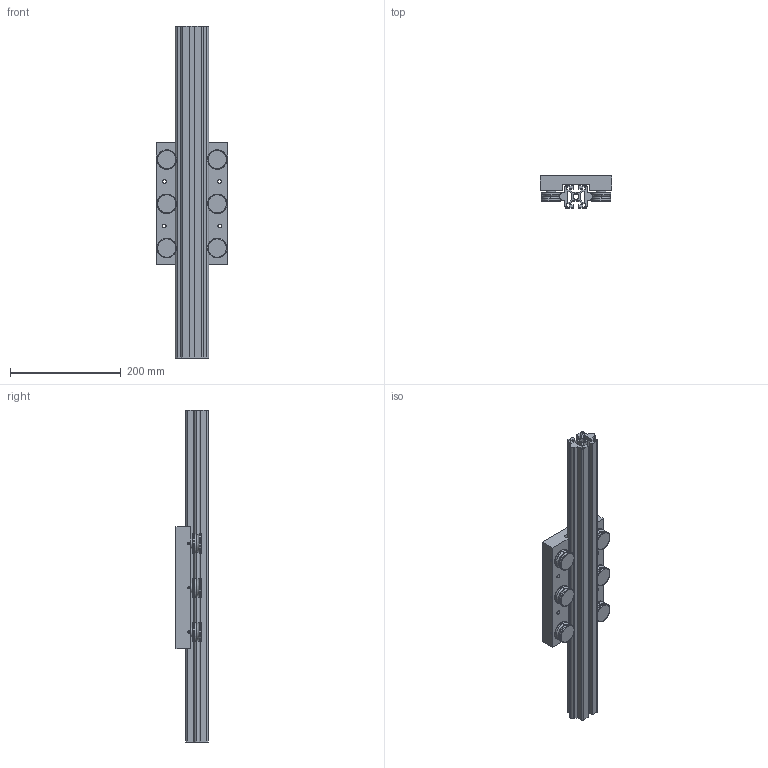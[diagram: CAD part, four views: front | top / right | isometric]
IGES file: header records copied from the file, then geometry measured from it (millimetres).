
Start section: SolidWorks IGES file using analytic representation for surfaces
Bounding box: 130 x 58 x 600 mm (x, y, z)
Surface area: 417916.5 mm2 (no closed solid volume)
Topology: 0 solids, 0 shells, 487 faces, 7638 edges, 7638 vertices
Faces by surface type: revolution 249, bspline 238
